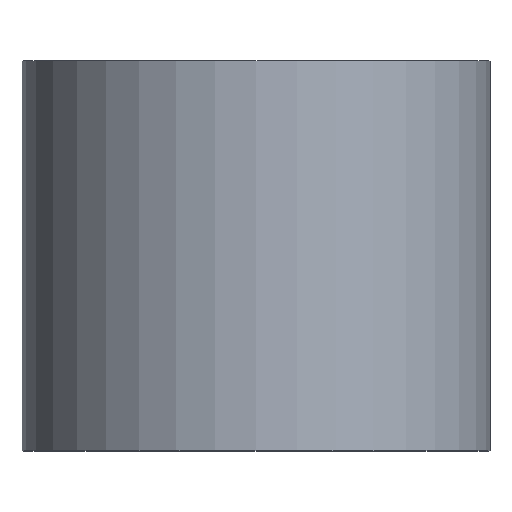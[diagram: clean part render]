
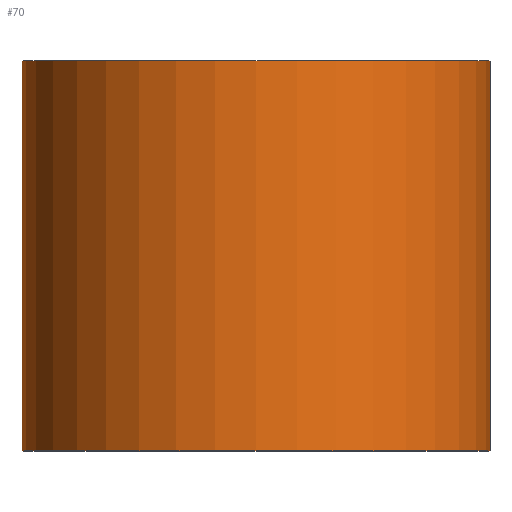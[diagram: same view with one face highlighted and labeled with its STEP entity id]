
A CAD part, top view. The second image highlights one B-rep face of the part: STEP entity #70.
In plain terms, the highlighted cylindrical face has radius 6 mm (diameter 12 mm), a partial arc.
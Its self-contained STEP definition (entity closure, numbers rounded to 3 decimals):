
#3 = EDGE_CURVE ( 'NONE', #31, #132, #296, .T. ) ;
#6 = DIRECTION ( 'NONE',  ( -1., 0., 0. ) ) ;
#10 = DIRECTION ( 'NONE',  ( 0., 1., 0. ) ) ;
#14 = AXIS2_PLACEMENT_3D ( 'NONE', #284, #142, #6 ) ;
#31 = VERTEX_POINT ( 'NONE', #250 ) ;
#32 = LINE ( 'NONE', #233, #214 ) ;
#38 = VERTEX_POINT ( 'NONE', #99 ) ;
#43 = LINE ( 'NONE', #103, #301 ) ;
#44 = DIRECTION ( 'NONE',  ( 0., 1., 0. ) ) ;
#46 = DIRECTION ( 'NONE',  ( -1., 0., 0. ) ) ;
#66 = CARTESIAN_POINT ( 'NONE',  ( 0., 10., 0. ) ) ;
#70 = ADVANCED_FACE ( 'NONE', ( #206 ), #109, .T. ) ;
#74 = CARTESIAN_POINT ( 'NONE',  ( 0., 0., 0. ) ) ;
#76 = CARTESIAN_POINT ( 'NONE',  ( 6., 0., 0. ) ) ;
#83 = CARTESIAN_POINT ( 'NONE',  ( 6., 10., 0. ) ) ;
#94 = EDGE_LOOP ( 'NONE', ( #161, #183, #154, #168 ) ) ;
#99 = CARTESIAN_POINT ( 'NONE',  ( -6., 10., 0. ) ) ;
#103 = CARTESIAN_POINT ( 'NONE',  ( -6., 0., 0. ) ) ;
#109 = CYLINDRICAL_SURFACE ( 'NONE', #14, 6. ) ;
#132 = VERTEX_POINT ( 'NONE', #76 ) ;
#141 = DIRECTION ( 'NONE',  ( 0., 1., 0. ) ) ;
#142 = DIRECTION ( 'NONE',  ( 0., 1., 0. ) ) ;
#154 = ORIENTED_EDGE ( 'NONE', *, *, #256, .F. ) ;
#161 = ORIENTED_EDGE ( 'NONE', *, *, #3, .T. ) ;
#168 = ORIENTED_EDGE ( 'NONE', *, *, #190, .F. ) ;
#170 = DIRECTION ( 'NONE',  ( -1., 0., 0. ) ) ;
#183 = ORIENTED_EDGE ( 'NONE', *, *, #280, .T. ) ;
#186 = VERTEX_POINT ( 'NONE', #83 ) ;
#190 = EDGE_CURVE ( 'NONE', #31, #38, #43, .T. ) ;
#206 = FACE_OUTER_BOUND ( 'NONE', #94, .T. ) ;
#210 = AXIS2_PLACEMENT_3D ( 'NONE', #74, #141, #170 ) ;
#214 = VECTOR ( 'NONE', #235, 1000. ) ;
#233 = CARTESIAN_POINT ( 'NONE',  ( 6., 0., 0. ) ) ;
#235 = DIRECTION ( 'NONE',  ( 0., 1., 0. ) ) ;
#242 = AXIS2_PLACEMENT_3D ( 'NONE', #66, #44, #46 ) ;
#250 = CARTESIAN_POINT ( 'NONE',  ( -6., 0., 0. ) ) ;
#256 = EDGE_CURVE ( 'NONE', #38, #186, #279, .T. ) ;
#279 = CIRCLE ( 'NONE', #242, 6. ) ;
#280 = EDGE_CURVE ( 'NONE', #132, #186, #32, .T. ) ;
#284 = CARTESIAN_POINT ( 'NONE',  ( 0., 0., 0. ) ) ;
#296 = CIRCLE ( 'NONE', #210, 6. ) ;
#301 = VECTOR ( 'NONE', #10, 1000. ) ;
